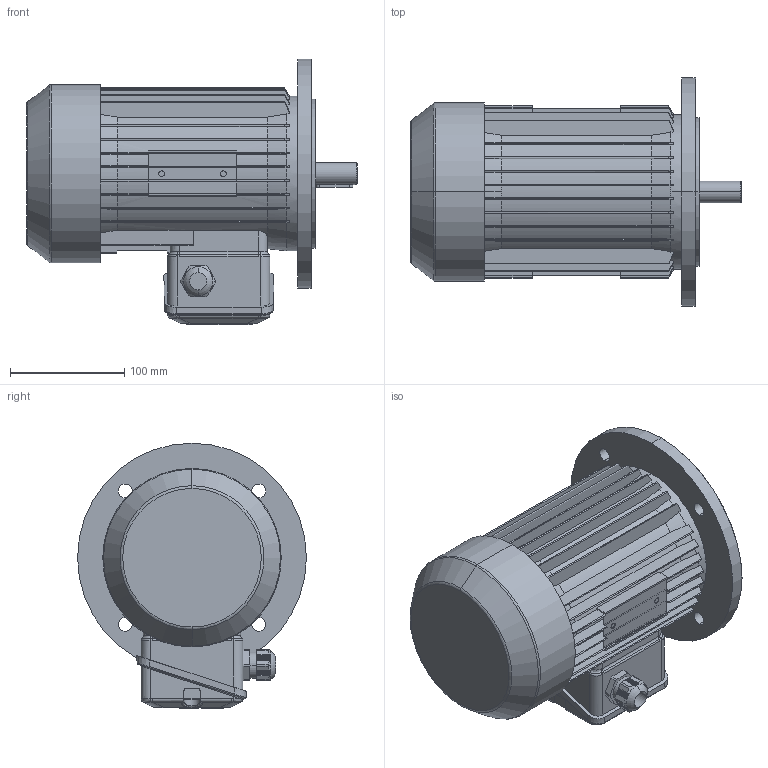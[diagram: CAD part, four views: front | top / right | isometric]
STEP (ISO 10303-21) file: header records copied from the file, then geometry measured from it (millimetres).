
FILE_DESCRIPTION (( 'STEP AP214' ), '1' );
FILE_NAME ('MAP80M2B IM3041 A200 FF165_Rev.1A.STEP', '2021-05-03T12:57:57', ( '' ), ( '' ), 'SwSTEP 2.0', 'SolidWorks 2018', '' );
FILE_SCHEMA (( 'AUTOMOTIVE_DESIGN' ));
Length unit declared in the file: millimetre
Products named in the file (1): MAP80M2B IM3041 A200 FF165_Rev.1A
Bounding box: 289 x 200 x 232 mm (x, y, z)
Volume: 4407973.8 mm3; surface area: 325981.3 mm2
Topology: 3 solids, 8 shells, 1147 faces, 2995 edges, 1891 vertices
Faces by surface type: plane 542, cylinder 296, bspline 148, cone 136, torus 23, sphere 2
Entity records: 43605 total; most frequent: CARTESIAN_POINT 17114, ORIENTED_EDGE 5970, DIRECTION 4893, EDGE_CURVE 2985, VERTEX_POINT 1891, AXIS2_PLACEMENT_3D 1652, VECTOR 1589, LINE 1589
